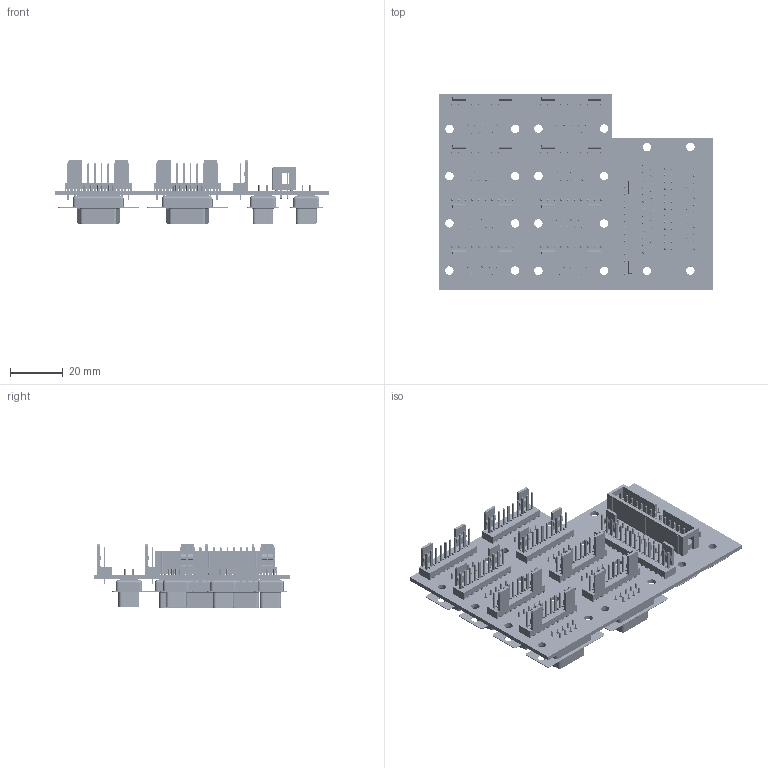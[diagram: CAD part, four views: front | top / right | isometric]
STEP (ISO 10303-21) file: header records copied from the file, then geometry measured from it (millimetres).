
FILE_DESCRIPTION(('KiCad electronic assembly'),'2;1');
FILE_NAME('Serial_DB9_parallel.step','2023-10-07T22:16:31',('Pcbnew'),( 'Kicad'),'Open CASCADE STEP processor 7.6','KiCad to STEP converter' ,'Unknown');
FILE_SCHEMA(('AUTOMOTIVE_DESIGN { 1 0 10303 214 1 1 1 1 }'));
Length unit declared in the file: millimetre
Products named in the file (14): Serial_DB9_parallel 1; Molex_KK-254_AE-6410-10A_1x10_P2.54mm_Vertical; SOLID; Molex_KK-254_AE-6410-15A_1x15_P2.54mm_Vertical; IDC-Header_2x13_P2.54mm_Vertical; DSUB-9_Male_Vertical_P2.77x2.84mm_MountingHoles; DSUB-25_Female_Vertical_P2.77x2.84mm_MountingHoles; DSUB-9_Female_Vertical_P2.77x2.84mm_MountingHoles; Serial_DB9_parallel PCB
Assembly tree (27 placements, depth 3):
  Serial_DB9_parallel 1
    Molex_KK-254_AE-6410-10A_1x10_P2.54mm_Vertical  x8
      SOLID
    Molex_KK-254_AE-6410-15A_1x15_P2.54mm_Vertical
      SOLID
    IDC-Header_2x13_P2.54mm_Vertical
      SOLID
    DSUB-9_Male_Vertical_P2.77x2.84mm_MountingHoles  x4
      SOLID
    DSUB-25_Female_Vertical_P2.77x2.84mm_MountingHoles  x2
      SOLID
    DSUB-9_Female_Vertical_P2.77x2.84mm_MountingHoles  x4
      SOLID
    Serial_DB9_parallel PCB
Bounding box: 104.27 x 74.32 x 24.2 mm (x, y, z)
Volume: 36244.1 mm3; surface area: 48928.6 mm2
Topology: 21 solids, 25 shells, 5127 faces, 12207 edges, 7544 vertices
Faces by surface type: plane 3685, cylinder 934, torus 302, cone 150, sphere 40, revolution 16
Full cylindrical faces by diameter (mm): 0.64 x194, 0.853 x86, 1 x154, 1.19 x95, 3.2 x40
Entity records: 136653 total; most frequent: CARTESIAN_POINT 24030, DIRECTION 19086, LINE 12395, VECTOR 12395, ORIENTED_EDGE 9652, PCURVE 9652, DEFINITIONAL_REPRESENTATION 9652, EDGE_CURVE 4826
